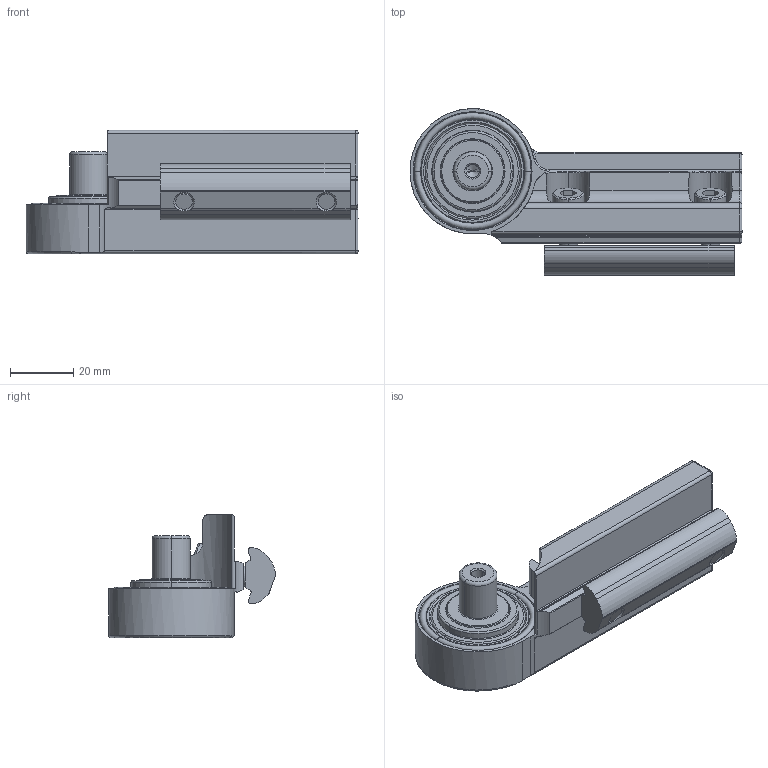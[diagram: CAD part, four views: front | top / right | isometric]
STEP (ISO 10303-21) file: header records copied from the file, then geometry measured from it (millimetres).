
FILE_DESCRIPTION (( 'STEP AP214' ), '1' );
FILE_NAME ('40mm Pivot Bracket - Offset Profile Mount Axle SIde(40MPI-0411-002-00).STEP', '2023-08-30T16:42:45', ( '' ), ( '' ), 'SwSTEP 2.0', 'SolidWorks 2020', '' );
FILE_SCHEMA (( 'AUTOMOTIVE_DESIGN' ));
Length unit declared in the file: millimetre
Products named in the file (1): 40mm Pivot Bracket - Offset Profile Mount Axle SIde(40MPI-0411-002-00)
Bounding box: 105 x 52.79 x 39 mm (x, y, z)
Volume: 79988.8 mm3; surface area: 25327.1 mm2
Topology: 7 solids, 7 shells, 295 faces, 680 edges, 399 vertices
Faces by surface type: cylinder 102, plane 77, torus 50, cone 45, bspline 20, sphere 1
Entity records: 9488 total; most frequent: CARTESIAN_POINT 2749, DIRECTION 1409, ORIENTED_EDGE 1336, EDGE_CURVE 668, AXIS2_PLACEMENT_3D 567, VERTEX_POINT 399, EDGE_LOOP 319, FACE_OUTER_BOUND 295
